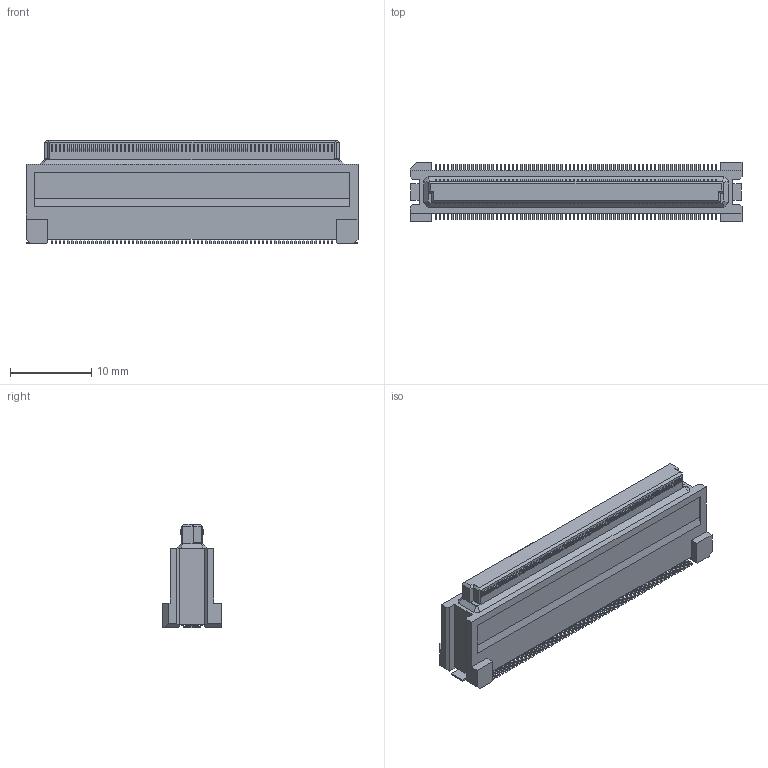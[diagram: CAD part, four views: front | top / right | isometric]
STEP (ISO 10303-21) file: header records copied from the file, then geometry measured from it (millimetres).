
FILE_DESCRIPTION(('Creo Elements/Direct Modeling STEP Export'),'2;1');
FILE_NAME('P39934_DY10-140FS-4.stp','2017-11-27T16:55:00',(''),(''),'Creo Elements/Direct Modeling STEP processor for AP214 (Solid Model)','Creo Elements/Direct Modeling 19.0F 14-Feb-2017 (C) Parametric Technology GmbH','');
FILE_SCHEMA(('AUTOMOTIVE_DESIGN { 1 0 10303 214 1 1 1 1 }'));
Products named in the file (2): DY10-140FS-4
Assembly tree (1 placements, depth 2):
  DY10-140FS-4
    DY10-140FS-4
Bounding box: 40.9 x 7.3 x 12.73 mm (x, y, z)
Volume: 2104.3 mm3; surface area: 1847.3 mm2
Topology: 1 solids, 1 shells, 1970 faces, 5433 edges, 3610 vertices
Faces by surface type: plane 1396, cylinder 566, bspline 8
Entity records: 62343 total; most frequent: CARTESIAN_POINT 12046, ORIENTED_EDGE 10866, DIRECTION 9915, EDGE_CURVE 5433, VECTOR 4277, LINE 4277, VERTEX_POINT 3610, AXIS2_PLACEMENT_3D 2819
